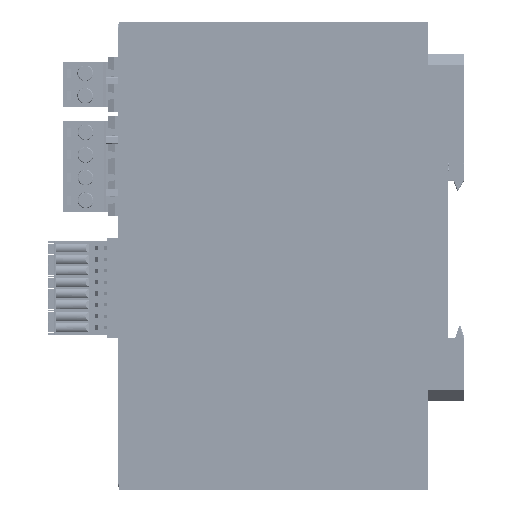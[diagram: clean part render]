
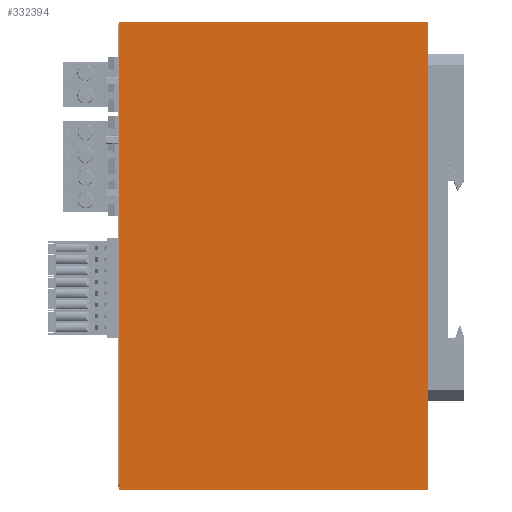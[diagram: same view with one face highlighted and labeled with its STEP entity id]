
A CAD part, front view. The second image highlights one B-rep face of the part: STEP entity #332394.
In plain terms, the highlighted planar face has unit normal (0, -1, 0).
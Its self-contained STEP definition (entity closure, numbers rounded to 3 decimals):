
#34927=FACE_OUTER_BOUND('',#53411,.T.);
#53411=EDGE_LOOP('',(#280437,#280438,#280439,#280440));
#72147=LINE('',#511190,#106427);
#86215=LINE('',#546825,#120495);
#86216=LINE('',#546828,#120496);
#86218=LINE('',#546831,#120498);
#106427=VECTOR('',#413171,10.);
#120495=VECTOR('',#444925,10.);
#120496=VECTOR('',#444928,10.);
#120498=VECTOR('',#444932,10.);
#138595=VERTEX_POINT('',#511188);
#138596=VERTEX_POINT('',#511189);
#149743=VERTEX_POINT('',#546823);
#149744=VERTEX_POINT('',#546827);
#176591=EDGE_CURVE('',#138595,#138596,#72147,.T.);
#193701=EDGE_CURVE('',#138596,#149743,#86215,.T.);
#193702=EDGE_CURVE('',#149743,#149744,#86216,.T.);
#193704=EDGE_CURVE('',#149744,#138595,#86218,.T.);
#280437=ORIENTED_EDGE('',*,*,#193704,.T.);
#280438=ORIENTED_EDGE('',*,*,#176591,.T.);
#280439=ORIENTED_EDGE('',*,*,#193701,.T.);
#280440=ORIENTED_EDGE('',*,*,#193702,.T.);
#299811=PLANE('',#359943);
#332394=ADVANCED_FACE('',(#34927),#299811,.F.);
#359943=AXIS2_PLACEMENT_3D('',#546832,#444933,#444934);
#413171=DIRECTION('',(0.,0.,-1.));
#444925=DIRECTION('',(1.,0.,0.));
#444928=DIRECTION('',(0.,0.,1.));
#444932=DIRECTION('',(-1.,0.,0.));
#444933=DIRECTION('center_axis',(0.,1.,0.));
#444934=DIRECTION('ref_axis',(0.,0.,1.));
#511188=CARTESIAN_POINT('',(-50.429,-8.586,-19.88));
#511189=CARTESIAN_POINT('',(-50.429,-8.586,-122.88));
#511190=CARTESIAN_POINT('',(-50.429,-8.586,-19.88));
#546823=CARTESIAN_POINT('',(17.571,-8.586,-122.88));
#546825=CARTESIAN_POINT('',(-50.429,-8.586,-122.88));
#546827=CARTESIAN_POINT('',(17.571,-8.586,-19.88));
#546828=CARTESIAN_POINT('',(17.571,-8.586,-122.88));
#546831=CARTESIAN_POINT('',(17.571,-8.586,-19.88));
#546832=CARTESIAN_POINT('Origin',(-16.429,-8.586,-71.38));
